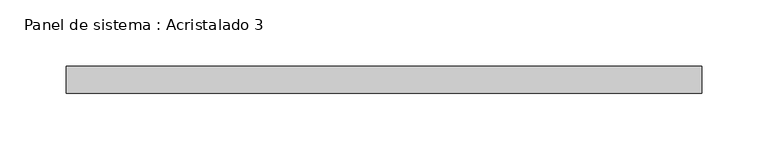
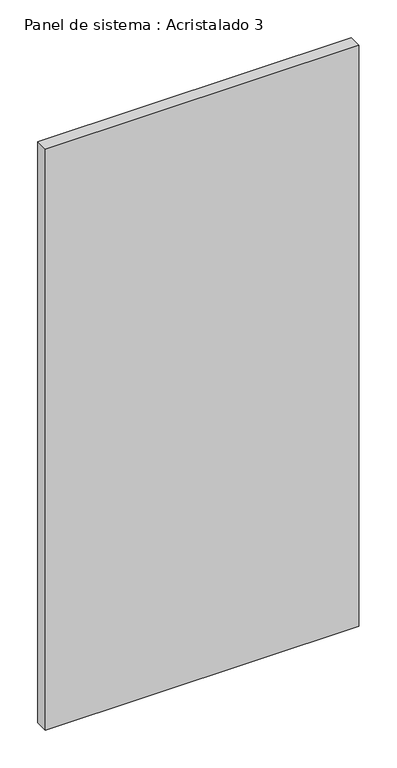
"""IFC4 building model written with IfcOpenShell, lengths in millimetres: plate geometry, Panel de sistema : Acristalado 3."""

from ifc_helpers import new_model, si_unit, origin, origin_with_axes, place, context, project, spatial, polyline, outline, extrude, source, transform, mapped, element, save


def panel_de_sistema_acristalado_3_9466de23(model_context):
    return source(origin(), model_context, "Body", "SweptSolid", [
        extrude(outline(polyline([(238.9651607, 90.0), (-238.9651607, 90.0), (-238.9651607, 110.0), (238.9651607, 110.0), (238.9651607, 90.0)])), origin_with_axes(), (0.0, 0.0, 1.0), 936.3914841),
    ])


if __name__ == "__main__":
    model = new_model("IFC4")
    model_context = context("Model", 3, world=origin())
    ifc_project = project(units=[si_unit("LENGTHUNIT", "METRE", prefix="MILLI")], contexts=[model_context])
    site = spatial("IfcSite", under=ifc_project)
    building = spatial("IfcBuilding", under=site)
    placement = place(None, origin())
    panel_de_sistema_acristalado_3_shape = panel_de_sistema_acristalado_3_9466de23(model_context)
    element("IfcPlate", 1, ObjectType="Panel de sistema : Acristalado 3", at=placement, inside=building, context=model_context, shape_type="MappedRepresentation", body=[
        mapped(panel_de_sistema_acristalado_3_shape, transform((0.0, 0.0, 0.0), x_axis=(1.0, 0.0, 0.0), y_axis=(0.0, 1.0, 0.0), z_axis=(0.0, 0.0, 1.0))),
    ])
    save(model, "model.ifc")
